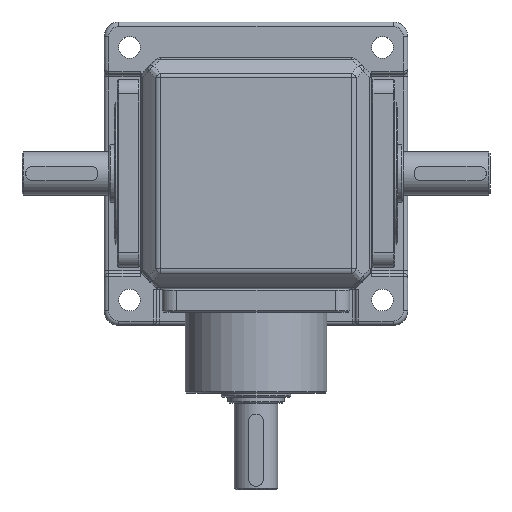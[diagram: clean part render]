
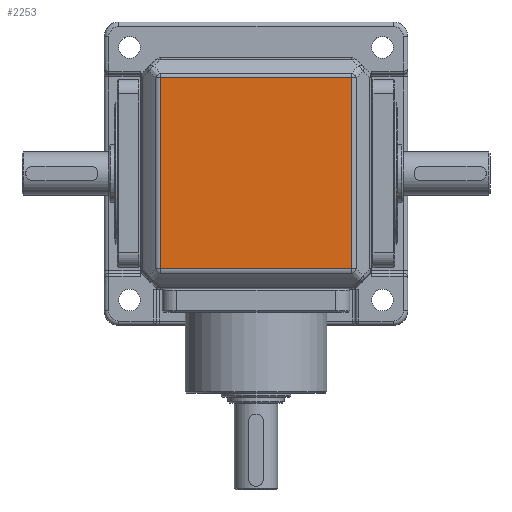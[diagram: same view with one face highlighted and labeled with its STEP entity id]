
A CAD part, top view. The second image highlights one B-rep face of the part: STEP entity #2253.
In plain terms, the highlighted planar face has unit normal (0, 0, 1).
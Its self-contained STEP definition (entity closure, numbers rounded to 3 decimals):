
#2253=ADVANCED_FACE('',(#3194),#3195,.T.);
#3194=FACE_OUTER_BOUND('',#5054,.T.);
#3195=PLANE('',#5055);
#5054=EDGE_LOOP('',(#8715,#8716,#8717,#8718));
#5055=AXIS2_PLACEMENT_3D('',#8719,#8720,#8721);
#8715=ORIENTED_EDGE('',*,*,#13265,.T.);
#8716=ORIENTED_EDGE('',*,*,#13266,.T.);
#8717=ORIENTED_EDGE('',*,*,#13267,.T.);
#8718=ORIENTED_EDGE('',*,*,#13268,.T.);
#8719=CARTESIAN_POINT('',(-160.,-5.556,165.0));
#8720=DIRECTION('',(0.0,0.0,1.0));
#8721=DIRECTION('',(0.0,-1.0,0.0));
#13265=EDGE_CURVE('',#14728,#14729,#14730,.T.);
#13266=EDGE_CURVE('',#14729,#14731,#14732,.F.);
#13267=EDGE_CURVE('',#14731,#14733,#14734,.F.);
#13268=EDGE_CURVE('',#14733,#14728,#14735,.T.);
#14728=VERTEX_POINT('',#17013);
#14729=VERTEX_POINT('',#17014);
#14730=LINE('',#17015,#17016);
#14731=VERTEX_POINT('',#17017);
#14732=LINE('',#17018,#17019);
#14733=VERTEX_POINT('',#17020);
#14734=LINE('',#17021,#17022);
#14735=LINE('',#17023,#17024);
#17013=CARTESIAN_POINT('',(-146.144,-19.412,165.0));
#17014=CARTESIAN_POINT('',(-146.144,-151.699,165.0));
#17015=CARTESIAN_POINT('',(-146.144,-5.556,165.0));
#17016=VECTOR('',#20123,1.0);
#17017=CARTESIAN_POINT('',(-13.856,-151.699,165.0));
#17018=CARTESIAN_POINT('',(-160.,-151.699,165.0));
#17019=VECTOR('',#20124,1.0);
#17020=CARTESIAN_POINT('',(-13.856,-19.412,165.0));
#17021=CARTESIAN_POINT('',(-13.856,-5.556,165.0));
#17022=VECTOR('',#20125,1.0);
#17023=CARTESIAN_POINT('',(-160.,-19.412,165.0));
#17024=VECTOR('',#20126,1.0);
#20123=DIRECTION('',(0.0,-1.0,0.0));
#20124=DIRECTION('',(-1.0,0.0,0.0));
#20125=DIRECTION('',(0.0,-1.0,0.0));
#20126=DIRECTION('',(-1.0,0.0,0.0));
